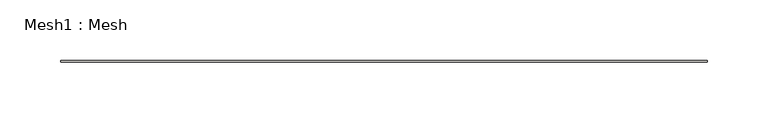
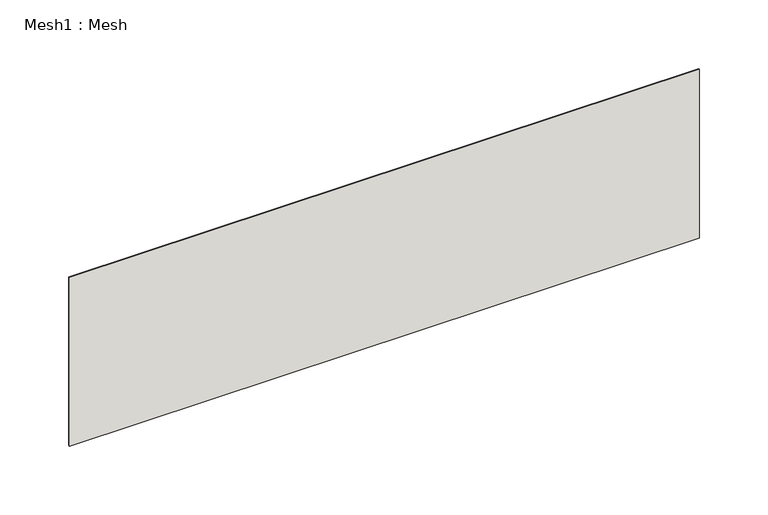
"""IFC4 building model written with IfcOpenShell, lengths in millimetres: wall geometry, Mesh1 : Mesh."""

import ifcopenshell
import ifcopenshell.guid

model = None  # the IFC model being written
_history = None  # IfcOwnerHistory: only IFC2X3 demands one
_inside = {}  # id of a spatial element -> (the spatial element, [elements in it])
_under = {}  # id of a project, library or spatial element -> (it, [spatial elements below it])
_declared = {}  # id of a project -> (the project, [libraries it declares])
_typed = {}  # id of a type object -> (the type object, [elements of that type])
_made_of = {}  # id of a material, layer set ... -> (it, [elements and type objects made of it])


def new_model(schema):
    """Start an empty IFC model of exactly this schema.

    Asked for "IFC4X3", IfcOpenShell would pick the latest addendum, in which some entities
    have other attributes; the version numbers below select the first issue.
    IFC2X3 requires an IfcOwnerHistory on every rooted entity: one is made here for all.
    """
    global model, _history
    if schema == "IFC4X3":
        model = ifcopenshell.file(schema_version=(4, 3, 0, 0))
    else:
        model = ifcopenshell.file(schema=schema)
    _inside.clear()
    _under.clear()
    _declared.clear()
    _typed.clear()
    _made_of.clear()
    _history = None
    if model.schema == "IFC2X3":
        org = make("IfcOrganization", Name="unknown")
        user = make(
            "IfcPersonAndOrganization",
            ThePerson=make("IfcPerson", FamilyName="unknown"),
            TheOrganization=org,
        )
        app = make(
            "IfcApplication",
            ApplicationDeveloper=org,
            Version="unknown",
            ApplicationFullName="unknown",
            ApplicationIdentifier="unknown",
        )
        _history = make(
            "IfcOwnerHistory",
            OwningUser=user,
            OwningApplication=app,
            ChangeAction="ADDED",
            CreationDate=0,
        )
    return model


def make(cls, **values):
    """One entity of the class cls with the attributes given. An attribute that is None is left unset."""
    return model.create_entity(
        cls, **{name: value for name, value in values.items() if value is not None}
    )


def rooted(cls, **values):
    """An entity with a GlobalId (a new one), such as an element, a storey or a relation."""
    return make(cls, GlobalId=ifcopenshell.guid.new(), OwnerHistory=_history, **values)


def si_unit(unit_type, name, prefix=None):
    """IfcSIUnit, for example si_unit("LENGTHUNIT", "METRE", prefix="MILLI")."""
    return make("IfcSIUnit", UnitType=unit_type, Prefix=prefix, Name=name)


def assignment(units):
    """IfcUnitAssignment: the units of a project."""
    return None if units is None else make("IfcUnitAssignment", Units=units)


def point(xyz):
    """IfcCartesianPoint."""
    return None if xyz is None else make("IfcCartesianPoint", Coordinates=xyz)


def direction(xyz):
    """IfcDirection."""
    return None if xyz is None else make("IfcDirection", DirectionRatios=xyz)


def frame(location, z_axis=None, x_axis=None):
    """IfcAxis2Placement3D, a coordinate frame: its origin and axes. An axis left out is left unset."""
    return make(
        "IfcAxis2Placement3D",
        Location=point(location),
        Axis=direction(z_axis),
        RefDirection=direction(x_axis),
    )


def origin():
    """The frame at (0, 0, 0) with its axes left unset."""
    return frame((0.0, 0.0, 0.0))


def place(relative_to, where):
    """IfcLocalPlacement: puts the frame where relative to a parent placement (None: the world)."""
    return make(
        "IfcLocalPlacement", PlacementRelTo=relative_to, RelativePlacement=where
    )


def context(
    kind, dimensions, precision=None, world=None, true_north=None, identifier=None
):
    """IfcGeometricRepresentationContext, for example the 3D "Model" context."""
    return make(
        "IfcGeometricRepresentationContext",
        ContextIdentifier=identifier,
        ContextType=kind,
        CoordinateSpaceDimension=dimensions,
        Precision=precision,
        WorldCoordinateSystem=world,
        TrueNorth=true_north,
    )


def project(units=None, contexts=None):
    """IfcProject with its units and contexts."""
    return rooted(
        "IfcProject",
        Name="project",
        RepresentationContexts=contexts,
        UnitsInContext=assignment(units),
    )


def spatial(cls, under=None, at=None, **own):
    """A site, building, storey or space (cls), placed at a placement, below another one or the project."""
    s = rooted(cls, ObjectPlacement=at, **own)
    if under is not None:
        _under.setdefault(under.id(), (under, []))[1].append(s)
    return s


def polyline(points):
    """IfcPolyline through the points."""
    return make("IfcPolyline", Points=[point(p) for p in points])


def outline(outer, holes=None, kind="AREA"):
    """IfcArbitraryClosedProfileDef: a profile drawn as a closed curve; with holes, ...WithVoids."""
    if holes is None:
        return make("IfcArbitraryClosedProfileDef", ProfileType=kind, OuterCurve=outer)
    return make(
        "IfcArbitraryProfileDefWithVoids",
        ProfileType=kind,
        OuterCurve=outer,
        InnerCurves=holes,
    )


def extrude(swept, where, along, depth):
    """IfcExtrudedAreaSolid: the profile swept, set in the frame where, extruded along a direction by depth."""
    return make(
        "IfcExtrudedAreaSolid",
        SweptArea=swept,
        Position=where,
        ExtrudedDirection=direction(along),
        Depth=depth,
    )


def shape(context_of_items, identifier, shape_type, items):
    """IfcShapeRepresentation: the items that make up one representation, for example the "Body"."""
    return make(
        "IfcShapeRepresentation",
        ContextOfItems=context_of_items,
        RepresentationIdentifier=identifier,
        RepresentationType=shape_type,
        Items=items,
    )


def source(mapping_origin, context_of_items, identifier, shape_type, items):
    """IfcRepresentationMap: a shape defined once, which mapped items show again and again."""
    return make(
        "IfcRepresentationMap",
        MappingOrigin=mapping_origin,
        MappedRepresentation=shape(context_of_items, identifier, shape_type, items),
    )


def transform(
    local_origin,
    x_axis=None,
    y_axis=None,
    z_axis=None,
    scale=None,
    scale2=None,
    scale3=None,
    uniform=True,
):
    """IfcCartesianTransformationOperator3D, or its non-uniform kind. x_axis, y_axis, z_axis: its Axis1, 2, 3."""
    if uniform:
        return make(
            "IfcCartesianTransformationOperator3D",
            Axis1=direction(x_axis),
            Axis2=direction(y_axis),
            LocalOrigin=point(local_origin),
            Scale=scale,
            Axis3=direction(z_axis),
        )
    return make(
        "IfcCartesianTransformationOperator3DnonUniform",
        Axis1=direction(x_axis),
        Axis2=direction(y_axis),
        LocalOrigin=point(local_origin),
        Scale=scale,
        Axis3=direction(z_axis),
        Scale2=scale2,
        Scale3=scale3,
    )


def mapped(mapping_source, mapping_target):
    """IfcMappedItem: shows the shape of a source again, moved by a transform."""
    return make(
        "IfcMappedItem", MappingSource=mapping_source, MappingTarget=mapping_target
    )


def made_of(thing, what):
    """Note that an element or type object is made of a material, layer set ...; save() writes the relation."""
    if what is not None:
        _made_of.setdefault(what.id(), (what, []))[1].append(thing)
    return thing


def element(
    cls,
    number,
    at=None,
    inside=None,
    cuts=None,
    type_object=None,
    material=None,
    context=None,
    identifier="Body",
    shape_type=None,
    held_by="IfcProductDefinitionShape",
    body=None,
    shapes=None,
    **own,
):
    """One element of the class cls, such as IfcWall. Its Tag is "e" and its number.

    at: its placement. inside: the storey or other place that contains it. cuts: it is an
    opening in that element (IfcRelVoidsElement). A single representation is given by context,
    identifier, shape_type and body (its items); several are given by shapes. held_by: the class
    of the entity that holds the representations. save() writes the other relations.
    """
    e = rooted(cls, Tag="e%d" % number, ObjectPlacement=at, **own)
    if body is not None:
        shapes = [shape(context, identifier, shape_type, body)]
    if shapes is not None:
        e.Representation = make(held_by, Representations=shapes)
    if inside is not None:
        _inside.setdefault(inside.id(), (inside, []))[1].append(e)
    if cuts is not None:
        rooted(
            "IfcRelVoidsElement", RelatingBuildingElement=cuts, RelatedOpeningElement=e
        )
    if type_object is not None:
        _typed.setdefault(type_object.id(), (type_object, []))[1].append(e)
    return made_of(e, material)


def aggregate(whole, parts):
    """IfcRelAggregates: a whole, such as a stair, and the parts it consists of."""
    return rooted("IfcRelAggregates", RelatingObject=whole, RelatedObjects=parts)


def save(model, path):
    """Write the relations noted so far, then the file.

    IfcRelAggregates (storeys below a building ...), IfcRelContainedInSpatialStructure (elements
    in a storey), IfcRelDefinesByType, IfcRelAssociatesMaterial and IfcRelDeclares: one each for
    every whole, place, type object, material and project.
    """
    for whole, parts in _under.values():
        aggregate(whole, parts)
    for where, things in _inside.values():
        rooted(
            "IfcRelContainedInSpatialStructure",
            RelatedElements=things,
            RelatingStructure=where,
        )
    for kind, things in _typed.values():
        rooted("IfcRelDefinesByType", RelatedObjects=things, RelatingType=kind)
    for what, things in _made_of.values():
        rooted("IfcRelAssociatesMaterial", RelatedObjects=things, RelatingMaterial=what)
    for by, libraries in _declared.values():
        rooted("IfcRelDeclares", RelatingContext=by, RelatedDefinitions=libraries)
    model.write(path)


def mesh1_mesh_9d611ab2(model_context):
    return source(origin(), model_context, "Body", "SweptSolid", [
        extrude(outline(polyline([(21029.6407298, 14945.3863455), (20499.7747715, 14945.3863455), (20499.7747715, 14946.3863455), (21029.6407298, 14946.3863455), (21029.6407298, 14945.3863455)])), frame((0.0, 0.0, 1420.0), z_axis=(0.0, 0.0, 1.0), x_axis=(1.0, 0.0, 0.0)), (0.0, 0.0, 1.0), 150.0),
    ])


if __name__ == "__main__":
    model = new_model("IFC4")
    model_context = context("Model", 3, world=origin())
    ifc_project = project(units=[si_unit("LENGTHUNIT", "METRE", prefix="MILLI")], contexts=[model_context])
    site = spatial("IfcSite", under=ifc_project)
    building = spatial("IfcBuilding", under=site)
    placement = place(None, origin())
    mesh1_mesh_shape = mesh1_mesh_9d611ab2(model_context)
    element("IfcWall", 1, ObjectType="Mesh1 : Mesh", at=placement, inside=building, context=model_context, shape_type="MappedRepresentation", body=[
        mapped(mesh1_mesh_shape, transform((0.0, 0.0, 0.0), x_axis=(1.0, 0.0, 0.0), y_axis=(0.0, 1.0, 0.0), z_axis=(0.0, 0.0, 1.0))),
    ])
    save(model, "model.ifc")
